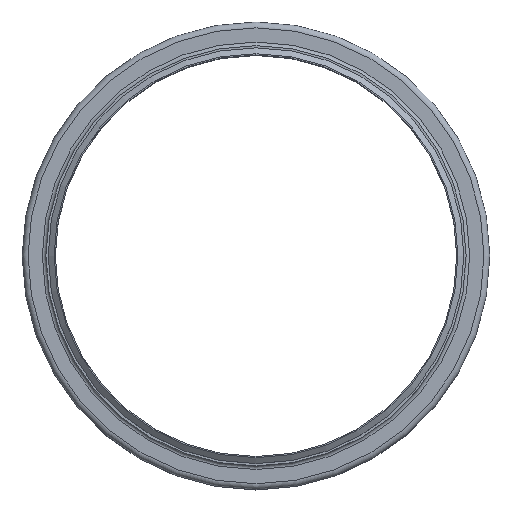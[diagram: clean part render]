
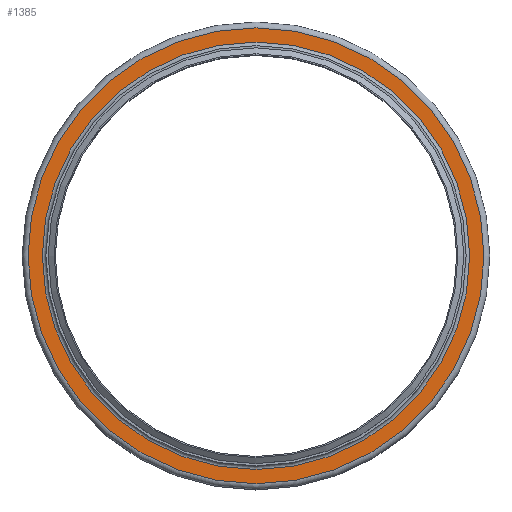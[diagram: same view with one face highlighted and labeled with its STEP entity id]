
A CAD part, top view. The second image highlights one B-rep face of the part: STEP entity #1385.
In plain terms, the highlighted planar face has unit normal (0, 0, 1).
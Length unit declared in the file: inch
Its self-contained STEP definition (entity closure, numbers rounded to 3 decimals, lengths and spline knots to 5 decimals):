
#155=FACE_BOUND('',#416,.T.);
#256=FACE_OUTER_BOUND('',#415,.T.);
#415=EDGE_LOOP('',(#1168));
#416=EDGE_LOOP('',(#1169));
#584=CIRCLE('',#1684,11.31);
#585=CIRCLE('',#1686,12.065);
#703=VERTEX_POINT('',#2631);
#704=VERTEX_POINT('',#2635);
#862=EDGE_CURVE('',#703,#703,#584,.T.);
#863=EDGE_CURVE('',#704,#704,#585,.T.);
#1168=ORIENTED_EDGE('',*,*,#863,.F.);
#1169=ORIENTED_EDGE('',*,*,#862,.T.);
#1284=PLANE('',#1685);
#1385=ADVANCED_FACE('',(#256,#155),#1284,.T.);
#1684=AXIS2_PLACEMENT_3D('',#2633,#2197,#2198);
#1685=AXIS2_PLACEMENT_3D('',#2634,#2199,#2200);
#1686=AXIS2_PLACEMENT_3D('',#2636,#2201,#2202);
#2197=DIRECTION('center_axis',(0.,0.,-1.));
#2198=DIRECTION('ref_axis',(1.,0.,0.));
#2199=DIRECTION('center_axis',(0.,0.,1.));
#2200=DIRECTION('ref_axis',(1.,0.,0.));
#2201=DIRECTION('center_axis',(0.,0.,-1.));
#2202=DIRECTION('ref_axis',(1.,0.,0.));
#2631=CARTESIAN_POINT('',(11.31,0.,-0.19));
#2633=CARTESIAN_POINT('Origin',(0.,0.,-0.19));
#2634=CARTESIAN_POINT('Origin',(0.,12.065,-0.19));
#2635=CARTESIAN_POINT('',(12.065,0.,-0.19));
#2636=CARTESIAN_POINT('Origin',(0.,0.,-0.19));
